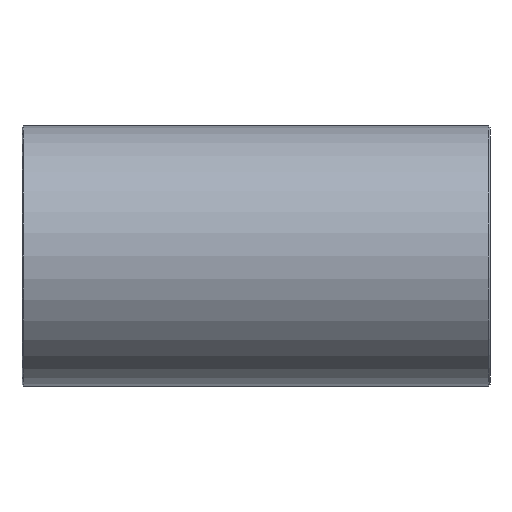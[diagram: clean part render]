
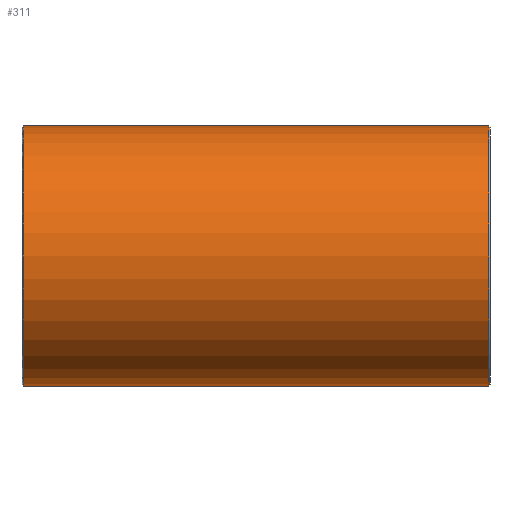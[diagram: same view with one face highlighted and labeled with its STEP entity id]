
A CAD part, front view. The second image highlights one B-rep face of the part: STEP entity #311.
In plain terms, the highlighted cylindrical face has radius 19.85 mm (diameter 39.7 mm), a full revolution.
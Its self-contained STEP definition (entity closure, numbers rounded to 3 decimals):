
#188=CARTESIAN_POINT('',(35.5,19.85,0.));
#189=VERTEX_POINT('',#188);
#190=CARTESIAN_POINT('',(35.5,0.0,0.0));
#191=DIRECTION('',(1.0,0.0,0.0));
#192=DIRECTION('',(0.0,-1.0,0.0));
#193=AXIS2_PLACEMENT_3D('',#190,#191,#192);
#194=CIRCLE('',#193,19.85);
#195=EDGE_CURVE('',#189,#189,#194,.T.);
#231=CARTESIAN_POINT('',(0.,0.0,0.0));
#232=DIRECTION('',(1.0,0.0,0.0));
#233=DIRECTION('',(0.0,1.0,0.0));
#234=AXIS2_PLACEMENT_3D('',#231,#232,#233);
#235=CYLINDRICAL_SURFACE('',#234,19.85);
#236=CARTESIAN_POINT('',(-35.5,19.85,0.));
#237=VERTEX_POINT('',#236);
#238=CARTESIAN_POINT('',(-35.5,0.0,0.0));
#239=DIRECTION('',(-1.0,0.0,0.0));
#240=DIRECTION('',(0.0,-1.0,0.0));
#241=AXIS2_PLACEMENT_3D('',#238,#239,#240);
#242=CIRCLE('',#241,19.85);
#243=EDGE_CURVE('',#237,#237,#242,.T.);
#244=ORIENTED_EDGE('',*,*,#243,.F.);
#245=EDGE_LOOP('',(#244));
#246=FACE_OUTER_BOUND('',#245,.T.);
#247=CARTESIAN_POINT('',(0.,18.398,7.451));
#248=VERTEX_POINT('',#247);
#249=CARTESIAN_POINT('',(0.,18.398,7.451));
#250=CARTESIAN_POINT('',(0.493,18.398,7.451));
#251=CARTESIAN_POINT('',(1.156,18.418,7.404));
#252=CARTESIAN_POINT('',(2.453,18.506,7.182));
#253=CARTESIAN_POINT('',(3.536,18.631,6.857));
#254=CARTESIAN_POINT('',(4.467,18.784,6.419));
#255=CARTESIAN_POINT('',(5.013,18.884,6.117));
#256=CARTESIAN_POINT('',(5.795,19.039,5.631));
#257=CARTESIAN_POINT('',(7.055,19.339,4.563));
#258=CARTESIAN_POINT('',(7.99,19.61,3.198));
#259=CARTESIAN_POINT('',(8.409,19.738,2.13));
#260=CARTESIAN_POINT('',(8.622,19.804,1.406));
#261=CARTESIAN_POINT('',(8.772,19.852,0.576));
#262=CARTESIAN_POINT('',(8.774,19.853,-0.467));
#263=CARTESIAN_POINT('',(8.658,19.816,-1.21));
#264=CARTESIAN_POINT('',(8.478,19.76,-1.938));
#265=CARTESIAN_POINT('',(8.185,19.669,-2.745));
#266=CARTESIAN_POINT('',(7.681,19.521,-3.627));
#267=CARTESIAN_POINT('',(7.213,19.393,-4.246));
#268=CARTESIAN_POINT('',(6.691,19.256,-4.834));
#269=CARTESIAN_POINT('',(5.688,19.011,-5.753));
#270=CARTESIAN_POINT('',(4.342,18.747,-6.537));
#271=CARTESIAN_POINT('',(3.125,18.587,-6.97));
#272=CARTESIAN_POINT('',(2.294,18.497,-7.204));
#273=CARTESIAN_POINT('',(1.335,18.422,-7.393));
#274=CARTESIAN_POINT('',(0.001,18.387,-7.48));
#275=CARTESIAN_POINT('',(-1.208,18.419,-7.402));
#276=CARTESIAN_POINT('',(-2.068,18.479,-7.249));
#277=CARTESIAN_POINT('',(-2.915,18.56,-7.04));
#278=CARTESIAN_POINT('',(-3.836,18.677,-6.73));
#279=CARTESIAN_POINT('',(-4.866,18.852,-6.223));
#280=CARTESIAN_POINT('',(-5.558,18.994,-5.771));
#281=CARTESIAN_POINT('',(-6.53,19.209,-5.032));
#282=CARTESIAN_POINT('',(-7.323,19.419,-4.191));
#283=CARTESIAN_POINT('',(-7.96,19.603,-3.142));
#284=CARTESIAN_POINT('',(-8.292,19.702,-2.454));
#285=CARTESIAN_POINT('',(-8.583,19.792,-1.623));
#286=CARTESIAN_POINT('',(-8.74,19.842,-0.752));
#287=CARTESIAN_POINT('',(-8.773,19.853,0.));
#288=CARTESIAN_POINT('',(-8.736,19.841,0.839));
#289=CARTESIAN_POINT('',(-8.55,19.781,1.769));
#290=CARTESIAN_POINT('',(-8.132,19.654,2.836));
#291=CARTESIAN_POINT('',(-7.611,19.501,3.75));
#292=CARTESIAN_POINT('',(-6.932,19.316,4.595));
#293=CARTESIAN_POINT('',(-6.206,19.137,5.283));
#294=CARTESIAN_POINT('',(-5.243,18.923,6.016));
#295=CARTESIAN_POINT('',(-3.849,18.667,6.764));
#296=CARTESIAN_POINT('',(-2.456,18.506,7.181));
#297=CARTESIAN_POINT('',(-1.156,18.418,7.404));
#298=CARTESIAN_POINT('',(-0.493,18.398,7.451));
#299=CARTESIAN_POINT('',(0.,18.398,7.451));
#300=CARTESIAN_POINT('',(0.,18.398,7.451));
#301=CARTESIAN_POINT('',(0.,18.398,7.451));
#302=CARTESIAN_POINT('',(0.,18.398,7.451));
#303=B_SPLINE_CURVE_WITH_KNOTS('',3,(#249,#250,#251,#252,#253,#254,#255,#256,#257,#258,#259,#260,#261,#262,#263,#264,#265,#266,#267,#268,#269,#270,#271,#272,#273,#274,#275,#276,#277,#278,#279,#280,#281,#282,#283,#284,#285,#286,#287,#288,#289,#290,#291,#292,#293,#294,#295,#296,#297,#298,#299,#300,#301,#302),.UNSPECIFIED.,.T.,.U.,(4,1,1,1,1,1,1,1,1,1,1,1,1,1,1,1,1,1,1,1,1,1,1,1,1,1,1,1,1,1,1,1,1,1,1,1,1,1,1,1,1,1,1,1,1,1,1,1,3,4),(-3.19,-3.104,-3.076,-2.962,-2.905,-2.891,-2.848,-2.734,-2.582,-2.525,-2.506,-2.43,-2.354,-2.297,-2.278,-2.202,-2.126,-2.079,-2.051,-1.975,-1.823,-1.766,-1.747,-1.671,-1.595,-1.519,-1.462,-1.443,-1.367,-1.291,-1.234,-1.215,-1.063,-1.013,-0.975,-0.911,-0.835,-0.797,-0.759,-0.665,-0.608,-0.532,-0.456,-0.399,-0.342,-0.228,-0.114,-0.085,0.0,0.),.UNSPECIFIED.);
#304=EDGE_CURVE('',#248,#248,#303,.T.);
#305=ORIENTED_EDGE('',*,*,#304,.F.);
#306=EDGE_LOOP('',(#305));
#307=FACE_BOUND('',#306,.T.);
#308=ORIENTED_EDGE('',*,*,#195,.F.);
#309=EDGE_LOOP('',(#308));
#310=FACE_BOUND('',#309,.T.);
#311=ADVANCED_FACE('',(#246,#307,#310),#235,.T.);
